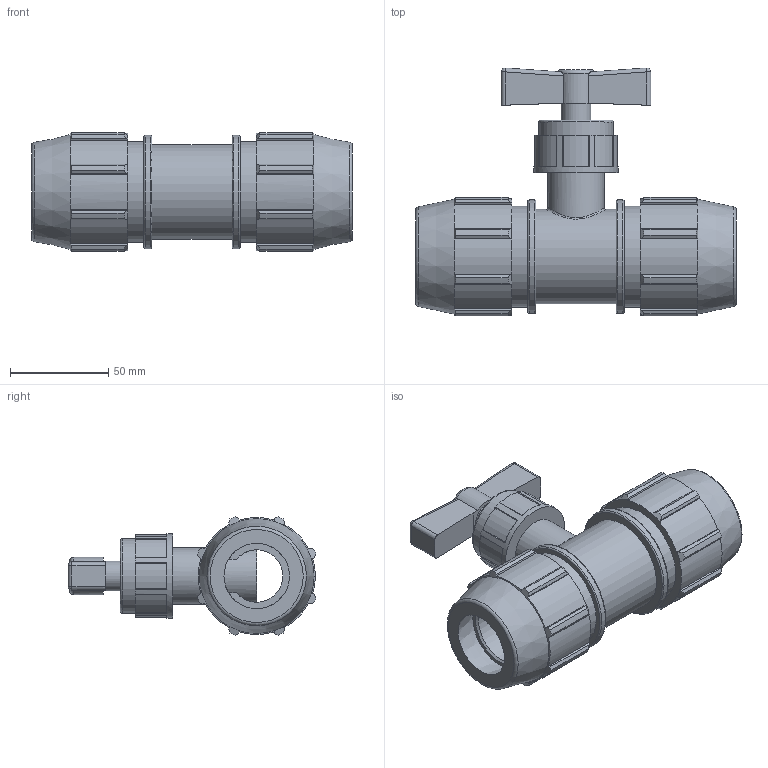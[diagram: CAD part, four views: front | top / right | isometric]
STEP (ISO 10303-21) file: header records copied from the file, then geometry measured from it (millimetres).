
FILE_DESCRIPTION(/* description */ ('PLASSON COMPRESSION STOPTAP 1'''' - 1'''''),/* implementation_level */ '2;1');
FILE_NAME(/* name */ 'C:\Dropbox\KIMPROJECTS-Inventor 2019\99-16-3568-Processing Inch\ASTM Compression 2021\0340M0\0340M010.ipt.stp',/* time_stamp */ '2021-08-26T12:28:17+03:00',/* author */ ('KIM'),/* organization */ (''),/* preprocessor_version */ 'ST-DEVELOPER v17.2',/* originating_system */ 'Autodesk Inventor 2019',/* authorisation */ '');
FILE_SCHEMA (('AUTOMOTIVE_DESIGN { 1 0 10303 214 3 1 1 }'));
Length unit declared in the file: inch
Products named in the file (1): 0340M010
Bounding box: 163.07 x 125.96 x 60.23 mm (x, y, z)
Volume: 323213 mm3; surface area: 66552.3 mm2
Topology: 1 solids, 1 shells, 235 faces, 678 edges, 458 vertices
Faces by surface type: plane 132, cylinder 66, cone 24, torus 8, sphere 4, bspline 1
Full cylindrical faces by diameter (mm): 15.199 x1, 28.499 x1, 33.3 x2, 37.998 x1, 42.748 x1, 48.006 x1, 51.206 x2, 57.607 x2
Entity records: 8317 total; most frequent: CARTESIAN_POINT 1809, ORIENTED_EDGE 1358, DIRECTION 1296, EDGE_CURVE 679, AXIS2_PLACEMENT_3D 465, VERTEX_POINT 459, LINE 366, VECTOR 366
